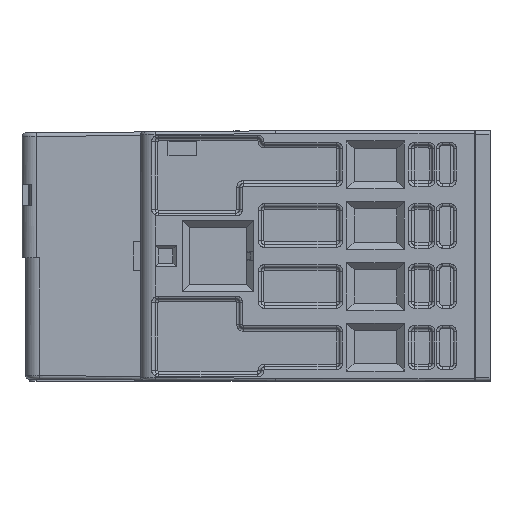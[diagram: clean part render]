
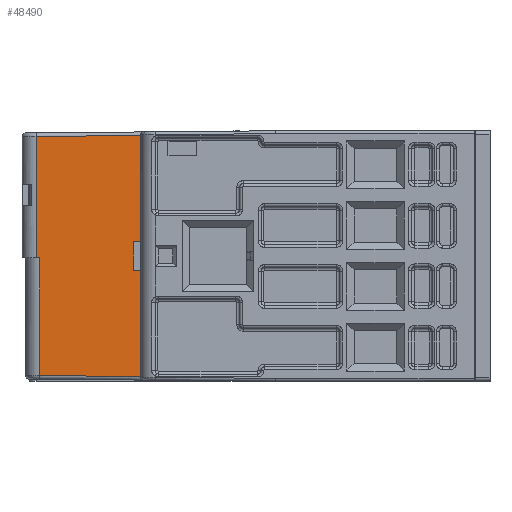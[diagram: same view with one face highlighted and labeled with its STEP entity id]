
A CAD part, left-side view. The second image highlights one B-rep face of the part: STEP entity #48490.
In plain terms, the highlighted planar face has unit normal (-1, 0.009, 0).
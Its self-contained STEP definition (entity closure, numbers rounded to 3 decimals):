
#44 = EDGE_CURVE ( 'NONE', #37697, #4618, #2871, .T. ) ;
#646 = PLANE ( 'NONE',  #43531 ) ;
#2252 = VERTEX_POINT ( 'NONE', #35222 ) ;
#2871 = LINE ( 'NONE', #46997, #52162 ) ;
#3377 = DIRECTION ( 'NONE',  ( 0.009, 1., 0. ) ) ;
#3395 = CARTESIAN_POINT ( 'NONE',  ( -22.45, 43.8, -16.836 ) ) ;
#3695 = CARTESIAN_POINT ( 'NONE',  ( -22.45, 43.8, -2. ) ) ;
#4618 = VERTEX_POINT ( 'NONE', #10742 ) ;
#4928 = CARTESIAN_POINT ( 'NONE',  ( -22.45, 43.8, 16.836 ) ) ;
#5781 = DIRECTION ( 'NONE',  ( -0.009, -1., 0. ) ) ;
#7270 = DIRECTION ( 'NONE',  ( 0., 0., 1. ) ) ;
#7701 = ORIENTED_EDGE ( 'NONE', *, *, #31906, .T. ) ;
#8294 = LINE ( 'NONE', #30360, #22677 ) ;
#9782 = DIRECTION ( 'NONE',  ( -0.009, -1., 0. ) ) ;
#10742 = CARTESIAN_POINT ( 'NONE',  ( -22.322, 58.422, -0.25 ) ) ;
#11320 = CARTESIAN_POINT ( 'NONE',  ( -22.45, 43.8, 16.836 ) ) ;
#11676 = VERTEX_POINT ( 'NONE', #55659 ) ;
#11783 = ORIENTED_EDGE ( 'NONE', *, *, #44, .F. ) ;
#12209 = ORIENTED_EDGE ( 'NONE', *, *, #18671, .T. ) ;
#12220 = VECTOR ( 'NONE', #50264, 1000. ) ;
#13565 = VERTEX_POINT ( 'NONE', #3395 ) ;
#14163 = EDGE_CURVE ( 'NONE', #11676, #39008, #25880, .T. ) ;
#14550 = LINE ( 'NONE', #26169, #48085 ) ;
#15004 = CARTESIAN_POINT ( 'NONE',  ( -22.45, 43.8, 2. ) ) ;
#15558 = VECTOR ( 'NONE', #7270, 1000. ) ;
#16614 = CARTESIAN_POINT ( 'NONE',  ( -22.327, 57.917, -0.25 ) ) ;
#16627 = VECTOR ( 'NONE', #5781, 1000. ) ;
#16987 = DIRECTION ( 'NONE',  ( 0., 0., 1. ) ) ;
#17009 = CARTESIAN_POINT ( 'NONE',  ( -22.327, 57.917, -16.713 ) ) ;
#17221 = CARTESIAN_POINT ( 'NONE',  ( -22.322, 58.422, 16.708 ) ) ;
#17874 = CARTESIAN_POINT ( 'NONE',  ( -22.45, 43.8, 2. ) ) ;
#17965 = EDGE_CURVE ( 'NONE', #13565, #20861, #14550, .T. ) ;
#18671 = EDGE_CURVE ( 'NONE', #2252, #55392, #41261, .T. ) ;
#19665 = LINE ( 'NONE', #47058, #15558 ) ;
#19918 = ORIENTED_EDGE ( 'NONE', *, *, #35861, .T. ) ;
#20861 = VERTEX_POINT ( 'NONE', #17009 ) ;
#21082 = VECTOR ( 'NONE', #34302, 1000. ) ;
#22311 = VERTEX_POINT ( 'NONE', #17221 ) ;
#22441 = DIRECTION ( 'NONE',  ( -1., 0.009, 0. ) ) ;
#22677 = VECTOR ( 'NONE', #16987, 1000. ) ;
#23245 = B_SPLINE_CURVE_WITH_KNOTS ( 'NONE', 3,
 ( #11320, #46540, #55337, #46337 ),
 .UNSPECIFIED., .F., .F.,
 ( 4, 4 ),
 ( 0., 1. ),
 .UNSPECIFIED. ) ;
#23402 = DIRECTION ( 'NONE',  ( 0., 0., 1. ) ) ;
#24425 = VERTEX_POINT ( 'NONE', #4928 ) ;
#24622 = CARTESIAN_POINT ( 'NONE',  ( -22.327, 57.917, -18.612 ) ) ;
#24878 = FACE_OUTER_BOUND ( 'NONE', #34714, .T. ) ;
#25880 = LINE ( 'NONE', #3695, #21082 ) ;
#26169 = CARTESIAN_POINT ( 'NONE',  ( -22.309, 59.96, -16.695 ) ) ;
#26638 = LINE ( 'NONE', #40662, #55441 ) ;
#28007 = ORIENTED_EDGE ( 'NONE', *, *, #17965, .F. ) ;
#29460 = ORIENTED_EDGE ( 'NONE', *, *, #56394, .T. ) ;
#30360 = CARTESIAN_POINT ( 'NONE',  ( -22.45, 43.8, -17.5 ) ) ;
#31906 = EDGE_CURVE ( 'NONE', #13565, #11676, #8294, .T. ) ;
#32689 = ORIENTED_EDGE ( 'NONE', *, *, #14163, .T. ) ;
#34302 = DIRECTION ( 'NONE',  ( 0.009, 1., 0. ) ) ;
#34714 = EDGE_LOOP ( 'NONE', ( #28007, #7701, #32689, #47888, #12209, #19918, #41677, #37806, #11783, #29460 ) ) ;
#35222 = CARTESIAN_POINT ( 'NONE',  ( -22.441, 44.8, 2. ) ) ;
#35632 = CARTESIAN_POINT ( 'NONE',  ( -22.45, 43.8, -18.612 ) ) ;
#35861 = EDGE_CURVE ( 'NONE', #55392, #24425, #19665, .T. ) ;
#37697 = VERTEX_POINT ( 'NONE', #16614 ) ;
#37806 = ORIENTED_EDGE ( 'NONE', *, *, #42391, .T. ) ;
#37982 = CARTESIAN_POINT ( 'NONE',  ( -22.441, 44.8, -2. ) ) ;
#38443 = EDGE_CURVE ( 'NONE', #39008, #2252, #53646, .T. ) ;
#39008 = VERTEX_POINT ( 'NONE', #37982 ) ;
#39161 = DIRECTION ( 'NONE',  ( 0.009, 1., 0.009 ) ) ;
#40662 = CARTESIAN_POINT ( 'NONE',  ( -22.322, 58.422, -18.612 ) ) ;
#41261 = LINE ( 'NONE', #15004, #16627 ) ;
#41677 = ORIENTED_EDGE ( 'NONE', *, *, #55597, .T. ) ;
#42391 = EDGE_CURVE ( 'NONE', #22311, #4618, #26638, .T. ) ;
#43013 = LINE ( 'NONE', #24622, #12220 ) ;
#43531 = AXIS2_PLACEMENT_3D ( 'NONE', #35632, #22441, #9782 ) ;
#44833 = CARTESIAN_POINT ( 'NONE',  ( -22.441, 44.8, -18.612 ) ) ;
#46337 = CARTESIAN_POINT ( 'NONE',  ( -22.322, 58.422, 16.708 ) ) ;
#46540 = CARTESIAN_POINT ( 'NONE',  ( -22.407, 48.674, 16.793 ) ) ;
#46997 = CARTESIAN_POINT ( 'NONE',  ( -22.327, 57.917, -0.25 ) ) ;
#47058 = CARTESIAN_POINT ( 'NONE',  ( -22.45, 43.8, -17.5 ) ) ;
#47888 = ORIENTED_EDGE ( 'NONE', *, *, #38443, .T. ) ;
#48085 = VECTOR ( 'NONE', #39161, 1000. ) ;
#48490 = ADVANCED_FACE ( 'NONE', ( #24878 ), #646, .T. ) ;
#50051 = DIRECTION ( 'NONE',  ( 0., 0., -1. ) ) ;
#50264 = DIRECTION ( 'NONE',  ( 0., 0., -1. ) ) ;
#52162 = VECTOR ( 'NONE', #3377, 1000. ) ;
#52279 = VECTOR ( 'NONE', #23402, 1000. ) ;
#53646 = LINE ( 'NONE', #44833, #52279 ) ;
#55337 = CARTESIAN_POINT ( 'NONE',  ( -22.365, 53.548, 16.751 ) ) ;
#55392 = VERTEX_POINT ( 'NONE', #17874 ) ;
#55441 = VECTOR ( 'NONE', #50051, 1000. ) ;
#55597 = EDGE_CURVE ( 'NONE', #24425, #22311, #23245, .T. ) ;
#55659 = CARTESIAN_POINT ( 'NONE',  ( -22.45, 43.8, -2. ) ) ;
#56394 = EDGE_CURVE ( 'NONE', #37697, #20861, #43013, .T. ) ;
